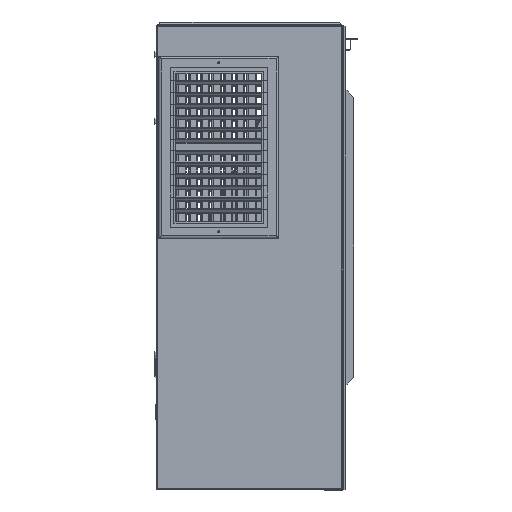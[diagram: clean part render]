
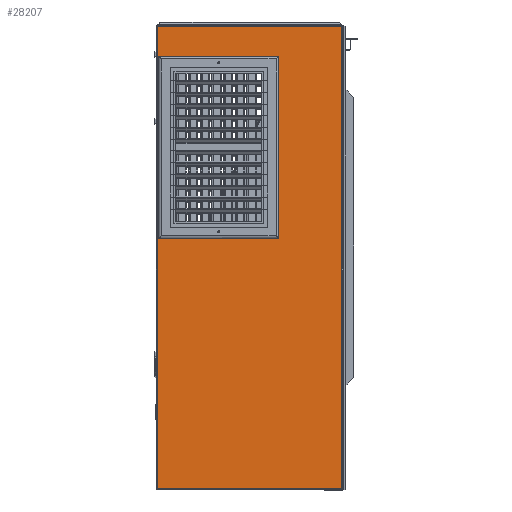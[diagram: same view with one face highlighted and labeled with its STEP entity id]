
A CAD part, left-side view. The second image highlights one B-rep face of the part: STEP entity #28207.
In plain terms, the highlighted planar face has unit normal (-1, 0, 0) by its records, which use the part's own axes.
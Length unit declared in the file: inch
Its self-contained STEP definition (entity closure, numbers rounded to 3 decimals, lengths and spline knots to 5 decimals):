
#841 = EDGE_CURVE ( 'NONE', #36659, #42435, #30654, .T. ) ;
#1030 = EDGE_CURVE ( 'NONE', #48618, #55597, #27910, .T. ) ;
#1709 = FACE_BOUND ( 'NONE', #24926, .T. ) ;
#2003 = VERTEX_POINT ( 'NONE', #2571 ) ;
#2495 = EDGE_LOOP ( 'NONE', ( #46091, #23904 ) ) ;
#2571 = CARTESIAN_POINT ( 'NONE',  ( 23.81432, 0.43467, 7.9375 ) ) ;
#3185 = CIRCLE ( 'NONE', #3204, 0.0625 ) ;
#3204 = AXIS2_PLACEMENT_3D ( 'NONE', #16480, #16436, #16428 ) ;
#3302 = VECTOR ( 'NONE', #41513, 39.37008 ) ;
#3359 = EDGE_CURVE ( 'NONE', #52560, #22189, #41228, .T. ) ;
#4098 = ORIENTED_EDGE ( 'NONE', *, *, #1030, .F. ) ;
#5092 = LINE ( 'NONE', #41333, #3302 ) ;
#5510 = CARTESIAN_POINT ( 'NONE',  ( 23.81432, 11.30467, 7.9375 ) ) ;
#5868 = ORIENTED_EDGE ( 'NONE', *, *, #7361, .F. ) ;
#5954 = DIRECTION ( 'NONE',  ( 0., 0., 1. ) ) ;
#6167 = EDGE_CURVE ( 'NONE', #22189, #48618, #5092, .T. ) ;
#6368 = CARTESIAN_POINT ( 'NONE',  ( 23.81432, 13.6608, 45.85532 ) ) ;
#7310 = AXIS2_PLACEMENT_3D ( 'NONE', #13522, #13468, #13335 ) ;
#7361 = EDGE_CURVE ( 'NONE', #48175, #38941, #10110, .T. ) ;
#7717 = AXIS2_PLACEMENT_3D ( 'NONE', #18476, #18253, #18187 ) ;
#8454 = CARTESIAN_POINT ( 'NONE',  ( 23.81432, 0.74467, 4.875 ) ) ;
#8590 = VECTOR ( 'NONE', #27784, 39.37008 ) ;
#9173 = CARTESIAN_POINT ( 'NONE',  ( 23.81432, 10.99467, 11.125 ) ) ;
#9674 = CARTESIAN_POINT ( 'NONE',  ( 23.81432, 11.30467, 8.0625 ) ) ;
#10110 = LINE ( 'NONE', #6368, #23873 ) ;
#10763 = ORIENTED_EDGE ( 'NONE', *, *, #6167, .F. ) ;
#13335 = DIRECTION ( 'NONE',  ( 0., 0., -1. ) ) ;
#13468 = DIRECTION ( 'NONE',  ( -1., 0., 0. ) ) ;
#13522 = CARTESIAN_POINT ( 'NONE',  ( 23.81432, 0.43467, 8. ) ) ;
#13591 = AXIS2_PLACEMENT_3D ( 'NONE', #39192, #39187, #39132 ) ;
#13773 = VECTOR ( 'NONE', #49105, 39.37008 ) ;
#14051 = EDGE_CURVE ( 'NONE', #20781, #29347, #35991, .T. ) ;
#16428 = DIRECTION ( 'NONE',  ( 0., 0., -1. ) ) ;
#16436 = DIRECTION ( 'NONE',  ( -1., 0., 0. ) ) ;
#16480 = CARTESIAN_POINT ( 'NONE',  ( 23.81432, 0.43467, 8. ) ) ;
#18187 = DIRECTION ( 'NONE',  ( 0., 0., -1. ) ) ;
#18253 = DIRECTION ( 'NONE',  ( 1., 0., 0. ) ) ;
#18476 = CARTESIAN_POINT ( 'NONE',  ( 23.81432, 13.74467, 45.85532 ) ) ;
#20781 = VERTEX_POINT ( 'NONE', #47634 ) ;
#21004 = VECTOR ( 'NONE', #33316, 39.37008 ) ;
#21014 = PLANE ( 'NONE',  #7717 ) ;
#21922 = CARTESIAN_POINT ( 'NONE',  ( 23.81432, 13.6608, 0.08388 ) ) ;
#22189 = VERTEX_POINT ( 'NONE', #9173 ) ;
#22639 = CARTESIAN_POINT ( 'NONE',  ( 23.81432, 13.74467, 0.08388 ) ) ;
#23492 = EDGE_LOOP ( 'NONE', ( #54459, #4098, #10763, #26723 ) ) ;
#23835 = LINE ( 'NONE', #53403, #13773 ) ;
#23873 = VECTOR ( 'NONE', #5954, 39.37008 ) ;
#23904 = ORIENTED_EDGE ( 'NONE', *, *, #25709, .F. ) ;
#24786 = EDGE_CURVE ( 'NONE', #38941, #20781, #41809, .T. ) ;
#24926 = EDGE_LOOP ( 'NONE', ( #43437, #46861 ) ) ;
#25050 = AXIS2_PLACEMENT_3D ( 'NONE', #28389, #28371, #28329 ) ;
#25258 = CARTESIAN_POINT ( 'NONE',  ( 23.81432, 0.74467, 11.125 ) ) ;
#25709 = EDGE_CURVE ( 'NONE', #42435, #36659, #48131, .T. ) ;
#26723 = ORIENTED_EDGE ( 'NONE', *, *, #3359, .F. ) ;
#27784 = DIRECTION ( 'NONE',  ( 0., 1., 0. ) ) ;
#27799 = CARTESIAN_POINT ( 'NONE',  ( 23.81432, 10.99467, 11.125 ) ) ;
#27910 = LINE ( 'NONE', #33678, #21004 ) ;
#28207 = ADVANCED_FACE ( 'NONE', ( #39604, #33078, #1709, #35483 ), #21014, .F. ) ;
#28329 = DIRECTION ( 'NONE',  ( 0., 0., -1. ) ) ;
#28371 = DIRECTION ( 'NONE',  ( -1., 0., 0. ) ) ;
#28389 = CARTESIAN_POINT ( 'NONE',  ( 23.81432, 11.30467, 8. ) ) ;
#28391 = EDGE_LOOP ( 'NONE', ( #5868, #34193, #45856, #33658 ) ) ;
#28393 = EDGE_CURVE ( 'NONE', #29494, #2003, #34883, .T. ) ;
#29033 = DIRECTION ( 'NONE',  ( 0., 0., -1. ) ) ;
#29347 = VERTEX_POINT ( 'NONE', #34713 ) ;
#29400 = CARTESIAN_POINT ( 'NONE',  ( 23.81432, -16.0777, 45.85532 ) ) ;
#29494 = VERTEX_POINT ( 'NONE', #31016 ) ;
#29818 = EDGE_CURVE ( 'NONE', #2003, #29494, #3185, .T. ) ;
#30654 = CIRCLE ( 'NONE', #13591, 0.0625 ) ;
#31016 = CARTESIAN_POINT ( 'NONE',  ( 23.81432, 0.43467, 8.0625 ) ) ;
#33078 = FACE_BOUND ( 'NONE', #23492, .T. ) ;
#33316 = DIRECTION ( 'NONE',  ( 0., -1., 0. ) ) ;
#33658 = ORIENTED_EDGE ( 'NONE', *, *, #24786, .F. ) ;
#33678 = CARTESIAN_POINT ( 'NONE',  ( 23.81432, 0.74467, 4.875 ) ) ;
#33949 = CARTESIAN_POINT ( 'NONE',  ( 23.81432, 13.6608, 11.91613 ) ) ;
#34193 = ORIENTED_EDGE ( 'NONE', *, *, #55144, .F. ) ;
#34713 = CARTESIAN_POINT ( 'NONE',  ( 23.81432, -16.0777, 0.08388 ) ) ;
#34883 = CIRCLE ( 'NONE', #7310, 0.0625 ) ;
#35483 = FACE_BOUND ( 'NONE', #2495, .T. ) ;
#35991 = LINE ( 'NONE', #29400, #41312 ) ;
#36659 = VERTEX_POINT ( 'NONE', #5510 ) ;
#36786 = EDGE_CURVE ( 'NONE', #55597, #52560, #23835, .T. ) ;
#38941 = VERTEX_POINT ( 'NONE', #33949 ) ;
#39132 = DIRECTION ( 'NONE',  ( 0., 0., -1. ) ) ;
#39187 = DIRECTION ( 'NONE',  ( -1., 0., 0. ) ) ;
#39192 = CARTESIAN_POINT ( 'NONE',  ( 23.81432, 11.30467, 8. ) ) ;
#39604 = FACE_OUTER_BOUND ( 'NONE', #28391, .T. ) ;
#40375 = VECTOR ( 'NONE', #52658, 39.37008 ) ;
#41228 = LINE ( 'NONE', #27799, #8590 ) ;
#41312 = VECTOR ( 'NONE', #29033, 39.37008 ) ;
#41333 = CARTESIAN_POINT ( 'NONE',  ( 23.81432, 10.99467, 4.875 ) ) ;
#41513 = DIRECTION ( 'NONE',  ( 0., 0., -1. ) ) ;
#41550 = LINE ( 'NONE', #22639, #40375 ) ;
#41809 = LINE ( 'NONE', #46116, #42514 ) ;
#42435 = VERTEX_POINT ( 'NONE', #9674 ) ;
#42514 = VECTOR ( 'NONE', #46047, 39.37008 ) ;
#43437 = ORIENTED_EDGE ( 'NONE', *, *, #29818, .F. ) ;
#45856 = ORIENTED_EDGE ( 'NONE', *, *, #14051, .F. ) ;
#46047 = DIRECTION ( 'NONE',  ( 0., -1., 0. ) ) ;
#46091 = ORIENTED_EDGE ( 'NONE', *, *, #841, .F. ) ;
#46116 = CARTESIAN_POINT ( 'NONE',  ( 23.81432, 13.74467, 11.91613 ) ) ;
#46861 = ORIENTED_EDGE ( 'NONE', *, *, #28393, .F. ) ;
#47634 = CARTESIAN_POINT ( 'NONE',  ( 23.81432, -16.0777, 11.91613 ) ) ;
#48131 = CIRCLE ( 'NONE', #25050, 0.0625 ) ;
#48175 = VERTEX_POINT ( 'NONE', #21922 ) ;
#48618 = VERTEX_POINT ( 'NONE', #54320 ) ;
#49105 = DIRECTION ( 'NONE',  ( 0., 0., 1. ) ) ;
#52560 = VERTEX_POINT ( 'NONE', #25258 ) ;
#52658 = DIRECTION ( 'NONE',  ( 0., 1., 0. ) ) ;
#53403 = CARTESIAN_POINT ( 'NONE',  ( 23.81432, 0.74467, 11.125 ) ) ;
#54320 = CARTESIAN_POINT ( 'NONE',  ( 23.81432, 10.99467, 4.875 ) ) ;
#54459 = ORIENTED_EDGE ( 'NONE', *, *, #36786, .F. ) ;
#55144 = EDGE_CURVE ( 'NONE', #29347, #48175, #41550, .T. ) ;
#55597 = VERTEX_POINT ( 'NONE', #8454 ) ;
